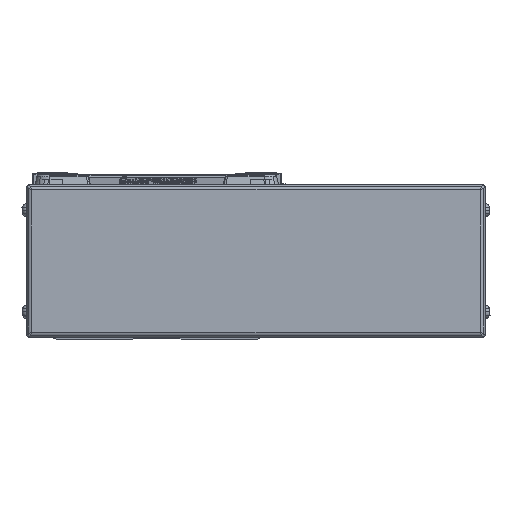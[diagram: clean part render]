
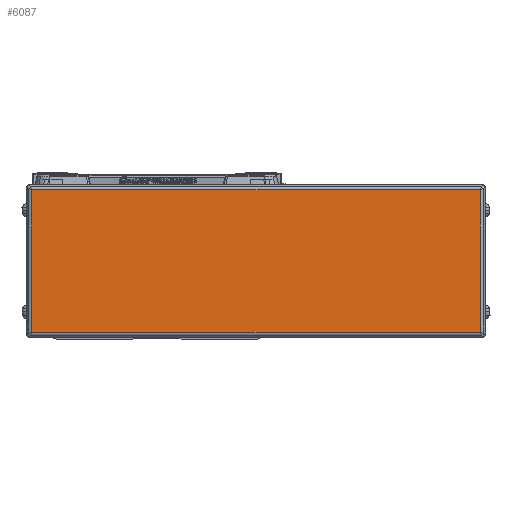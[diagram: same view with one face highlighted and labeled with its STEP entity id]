
A CAD part, left-side view. The second image highlights one B-rep face of the part: STEP entity #6087.
In plain terms, the highlighted planar face has unit normal (-1, 0, 0).
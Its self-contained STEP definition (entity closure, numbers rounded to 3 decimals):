
#6087=ADVANCED_FACE('',(#13052),#13053,.T.);
#13052=FACE_OUTER_BOUND('',#21457,.T.);
#13053=PLANE('',#21458);
#21457=EDGE_LOOP('',(#38878,#38879,#38880,#38881));
#21458=AXIS2_PLACEMENT_3D('',#38882,#38883,#38884);
#38878=ORIENTED_EDGE('',*,*,#53833,.F.);
#38879=ORIENTED_EDGE('',*,*,#51462,.F.);
#38880=ORIENTED_EDGE('',*,*,#53738,.F.);
#38881=ORIENTED_EDGE('',*,*,#48340,.F.);
#38882=CARTESIAN_POINT('',(-616.,-39.,0.));
#38883=DIRECTION('',(-1.0,0.,0.));
#38884=DIRECTION('',(0.,0.,1.0));
#48340=EDGE_CURVE('',#58014,#58016,#58017,.T.);
#51462=EDGE_CURVE('',#63172,#63174,#63175,.T.);
#53738=EDGE_CURVE('',#58016,#63172,#66384,.T.);
#53833=EDGE_CURVE('',#63174,#58014,#66515,.T.);
#58014=VERTEX_POINT('',#71711);
#58016=VERTEX_POINT('',#71713);
#58017=LINE('',#71714,#71715);
#63172=VERTEX_POINT('',#78836);
#63174=VERTEX_POINT('',#78838);
#63175=LINE('',#78839,#78840);
#66384=LINE('',#83249,#83250);
#66515=LINE('',#83457,#83458);
#71711=CARTESIAN_POINT('',(-616.,-127.2,28.));
#71713=CARTESIAN_POINT('',(-616.,-127.2,-28.));
#71714=CARTESIAN_POINT('',(-616.,-127.2,0.));
#71715=VECTOR('',#88805,10.0);
#78836=CARTESIAN_POINT('',(-616.0,49.2,-28.));
#78838=CARTESIAN_POINT('',(-616.,49.2,28.));
#78839=CARTESIAN_POINT('',(-616.,49.2,0.));
#78840=VECTOR('',#93122,10.0);
#83249=CARTESIAN_POINT('',(-616.,-39.,-28.));
#83250=VECTOR('',#95959,10.0);
#83457=CARTESIAN_POINT('',(-616.,-39.,28.));
#83458=VECTOR('',#96057,10.0);
#88805=DIRECTION('',(0.,0.,-1.0));
#93122=DIRECTION('',(0.,0.,1.0));
#95959=DIRECTION('',(0.,1.0,0.));
#96057=DIRECTION('',(0.,-1.0,0.));
